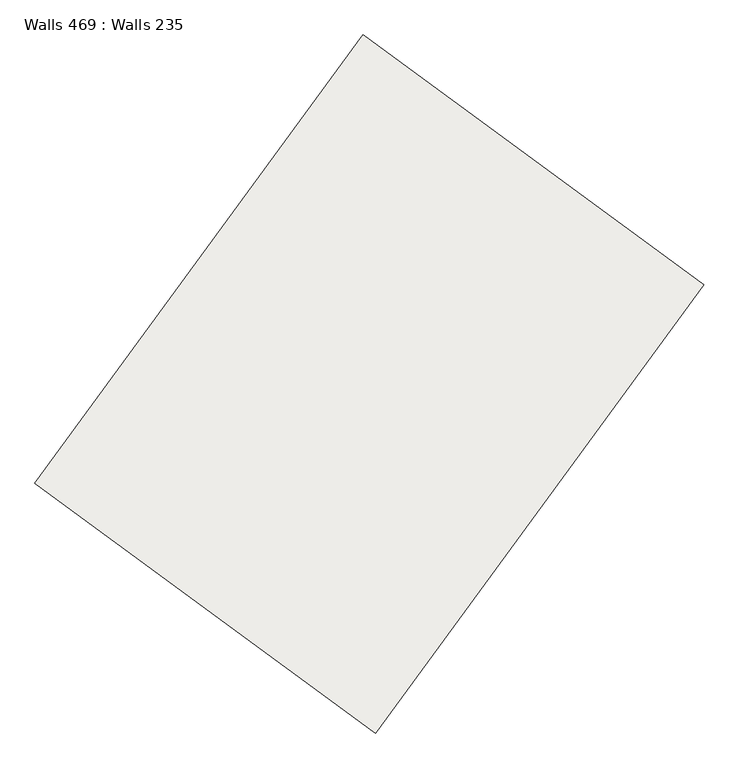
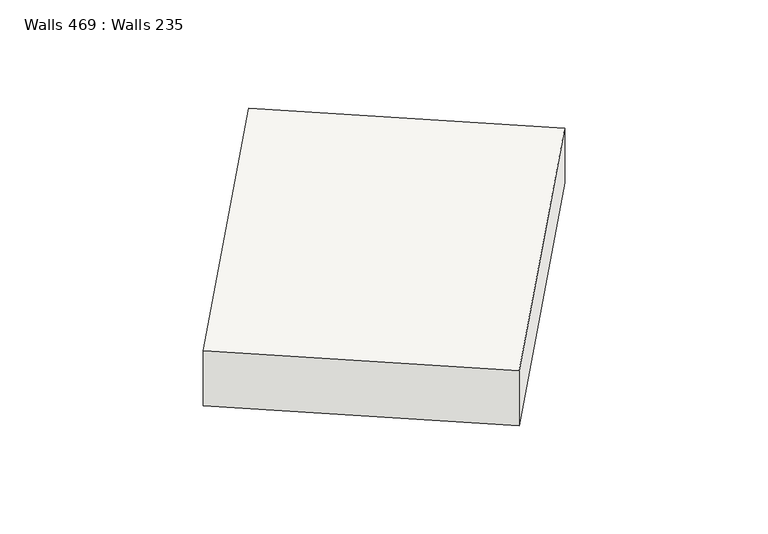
"""IFC4 building model written with IfcOpenShell, lengths in millimetres: slab geometry, Walls 469 : Walls 235."""

import ifcopenshell
import ifcopenshell.guid

model = None  # the IFC model being written
_history = None  # IfcOwnerHistory: only IFC2X3 demands one
_inside = {}  # id of a spatial element -> (the spatial element, [elements in it])
_under = {}  # id of a project, library or spatial element -> (it, [spatial elements below it])
_declared = {}  # id of a project -> (the project, [libraries it declares])
_typed = {}  # id of a type object -> (the type object, [elements of that type])
_made_of = {}  # id of a material, layer set ... -> (it, [elements and type objects made of it])


def new_model(schema):
    """Start an empty IFC model of exactly this schema.

    Asked for "IFC4X3", IfcOpenShell would pick the latest addendum, in which some entities
    have other attributes; the version numbers below select the first issue.
    IFC2X3 requires an IfcOwnerHistory on every rooted entity: one is made here for all.
    """
    global model, _history
    if schema == "IFC4X3":
        model = ifcopenshell.file(schema_version=(4, 3, 0, 0))
    else:
        model = ifcopenshell.file(schema=schema)
    _inside.clear()
    _under.clear()
    _declared.clear()
    _typed.clear()
    _made_of.clear()
    _history = None
    if model.schema == "IFC2X3":
        org = make("IfcOrganization", Name="unknown")
        user = make(
            "IfcPersonAndOrganization",
            ThePerson=make("IfcPerson", FamilyName="unknown"),
            TheOrganization=org,
        )
        app = make(
            "IfcApplication",
            ApplicationDeveloper=org,
            Version="unknown",
            ApplicationFullName="unknown",
            ApplicationIdentifier="unknown",
        )
        _history = make(
            "IfcOwnerHistory",
            OwningUser=user,
            OwningApplication=app,
            ChangeAction="ADDED",
            CreationDate=0,
        )
    return model


def make(cls, **values):
    """One entity of the class cls with the attributes given. An attribute that is None is left unset."""
    return model.create_entity(
        cls, **{name: value for name, value in values.items() if value is not None}
    )


def rooted(cls, **values):
    """An entity with a GlobalId (a new one), such as an element, a storey or a relation."""
    return make(cls, GlobalId=ifcopenshell.guid.new(), OwnerHistory=_history, **values)


def si_unit(unit_type, name, prefix=None):
    """IfcSIUnit, for example si_unit("LENGTHUNIT", "METRE", prefix="MILLI")."""
    return make("IfcSIUnit", UnitType=unit_type, Prefix=prefix, Name=name)


def assignment(units):
    """IfcUnitAssignment: the units of a project."""
    return None if units is None else make("IfcUnitAssignment", Units=units)


def point(xyz):
    """IfcCartesianPoint."""
    return None if xyz is None else make("IfcCartesianPoint", Coordinates=xyz)


def direction(xyz):
    """IfcDirection."""
    return None if xyz is None else make("IfcDirection", DirectionRatios=xyz)


def frame(location, z_axis=None, x_axis=None):
    """IfcAxis2Placement3D, a coordinate frame: its origin and axes. An axis left out is left unset."""
    return make(
        "IfcAxis2Placement3D",
        Location=point(location),
        Axis=direction(z_axis),
        RefDirection=direction(x_axis),
    )


def origin():
    """The frame at (0, 0, 0) with its axes left unset."""
    return frame((0.0, 0.0, 0.0))


def place(relative_to, where):
    """IfcLocalPlacement: puts the frame where relative to a parent placement (None: the world)."""
    return make(
        "IfcLocalPlacement", PlacementRelTo=relative_to, RelativePlacement=where
    )


def context(
    kind, dimensions, precision=None, world=None, true_north=None, identifier=None
):
    """IfcGeometricRepresentationContext, for example the 3D "Model" context."""
    return make(
        "IfcGeometricRepresentationContext",
        ContextIdentifier=identifier,
        ContextType=kind,
        CoordinateSpaceDimension=dimensions,
        Precision=precision,
        WorldCoordinateSystem=world,
        TrueNorth=true_north,
    )


def project(units=None, contexts=None):
    """IfcProject with its units and contexts."""
    return rooted(
        "IfcProject",
        Name="project",
        RepresentationContexts=contexts,
        UnitsInContext=assignment(units),
    )


def spatial(cls, under=None, at=None, **own):
    """A site, building, storey or space (cls), placed at a placement, below another one or the project."""
    s = rooted(cls, ObjectPlacement=at, **own)
    if under is not None:
        _under.setdefault(under.id(), (under, []))[1].append(s)
    return s


def polyline(points):
    """IfcPolyline through the points."""
    return make("IfcPolyline", Points=[point(p) for p in points])


def outline(outer, holes=None, kind="AREA"):
    """IfcArbitraryClosedProfileDef: a profile drawn as a closed curve; with holes, ...WithVoids."""
    if holes is None:
        return make("IfcArbitraryClosedProfileDef", ProfileType=kind, OuterCurve=outer)
    return make(
        "IfcArbitraryProfileDefWithVoids",
        ProfileType=kind,
        OuterCurve=outer,
        InnerCurves=holes,
    )


def extrude(swept, where, along, depth):
    """IfcExtrudedAreaSolid: the profile swept, set in the frame where, extruded along a direction by depth."""
    return make(
        "IfcExtrudedAreaSolid",
        SweptArea=swept,
        Position=where,
        ExtrudedDirection=direction(along),
        Depth=depth,
    )


def shape(context_of_items, identifier, shape_type, items):
    """IfcShapeRepresentation: the items that make up one representation, for example the "Body"."""
    return make(
        "IfcShapeRepresentation",
        ContextOfItems=context_of_items,
        RepresentationIdentifier=identifier,
        RepresentationType=shape_type,
        Items=items,
    )


def source(mapping_origin, context_of_items, identifier, shape_type, items):
    """IfcRepresentationMap: a shape defined once, which mapped items show again and again."""
    return make(
        "IfcRepresentationMap",
        MappingOrigin=mapping_origin,
        MappedRepresentation=shape(context_of_items, identifier, shape_type, items),
    )


def transform(
    local_origin,
    x_axis=None,
    y_axis=None,
    z_axis=None,
    scale=None,
    scale2=None,
    scale3=None,
    uniform=True,
):
    """IfcCartesianTransformationOperator3D, or its non-uniform kind. x_axis, y_axis, z_axis: its Axis1, 2, 3."""
    if uniform:
        return make(
            "IfcCartesianTransformationOperator3D",
            Axis1=direction(x_axis),
            Axis2=direction(y_axis),
            LocalOrigin=point(local_origin),
            Scale=scale,
            Axis3=direction(z_axis),
        )
    return make(
        "IfcCartesianTransformationOperator3DnonUniform",
        Axis1=direction(x_axis),
        Axis2=direction(y_axis),
        LocalOrigin=point(local_origin),
        Scale=scale,
        Axis3=direction(z_axis),
        Scale2=scale2,
        Scale3=scale3,
    )


def mapped(mapping_source, mapping_target):
    """IfcMappedItem: shows the shape of a source again, moved by a transform."""
    return make(
        "IfcMappedItem", MappingSource=mapping_source, MappingTarget=mapping_target
    )


def made_of(thing, what):
    """Note that an element or type object is made of a material, layer set ...; save() writes the relation."""
    if what is not None:
        _made_of.setdefault(what.id(), (what, []))[1].append(thing)
    return thing


def element(
    cls,
    number,
    at=None,
    inside=None,
    cuts=None,
    type_object=None,
    material=None,
    context=None,
    identifier="Body",
    shape_type=None,
    held_by="IfcProductDefinitionShape",
    body=None,
    shapes=None,
    **own,
):
    """One element of the class cls, such as IfcWall. Its Tag is "e" and its number.

    at: its placement. inside: the storey or other place that contains it. cuts: it is an
    opening in that element (IfcRelVoidsElement). A single representation is given by context,
    identifier, shape_type and body (its items); several are given by shapes. held_by: the class
    of the entity that holds the representations. save() writes the other relations.
    """
    e = rooted(cls, Tag="e%d" % number, ObjectPlacement=at, **own)
    if body is not None:
        shapes = [shape(context, identifier, shape_type, body)]
    if shapes is not None:
        e.Representation = make(held_by, Representations=shapes)
    if inside is not None:
        _inside.setdefault(inside.id(), (inside, []))[1].append(e)
    if cuts is not None:
        rooted(
            "IfcRelVoidsElement", RelatingBuildingElement=cuts, RelatedOpeningElement=e
        )
    if type_object is not None:
        _typed.setdefault(type_object.id(), (type_object, []))[1].append(e)
    return made_of(e, material)


def aggregate(whole, parts):
    """IfcRelAggregates: a whole, such as a stair, and the parts it consists of."""
    return rooted("IfcRelAggregates", RelatingObject=whole, RelatedObjects=parts)


def save(model, path):
    """Write the relations noted so far, then the file.

    IfcRelAggregates (storeys below a building ...), IfcRelContainedInSpatialStructure (elements
    in a storey), IfcRelDefinesByType, IfcRelAssociatesMaterial and IfcRelDeclares: one each for
    every whole, place, type object, material and project.
    """
    for whole, parts in _under.values():
        aggregate(whole, parts)
    for where, things in _inside.values():
        rooted(
            "IfcRelContainedInSpatialStructure",
            RelatedElements=things,
            RelatingStructure=where,
        )
    for kind, things in _typed.values():
        rooted("IfcRelDefinesByType", RelatedObjects=things, RelatingType=kind)
    for what, things in _made_of.values():
        rooted("IfcRelAssociatesMaterial", RelatedObjects=things, RelatingMaterial=what)
    for by, libraries in _declared.values():
        rooted("IfcRelDeclares", RelatingContext=by, RelatedDefinitions=libraries)
    model.write(path)


def walls_469_walls_235_b4fc17a1(model_context):
    return source(origin(), model_context, "Body", "SweptSolid", [
        extrude(outline(polyline([(-400.0, 0.0), (400.0, 0.0), (337.2, -4999.9823358), (-462.8, -4999.9823358), (-400.0, 0.0)])), frame((458056.3195047, 343519.119096, 646610.8), z_axis=(-0.80670163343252, 0.5909589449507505, 0.0), x_axis=(0.0, 0.0, 1.0)), (0.0, 0.0, 1.0), 3800.0),
    ])


if __name__ == "__main__":
    model = new_model("IFC4")
    model_context = context("Model", 3, world=origin())
    ifc_project = project(units=[si_unit("LENGTHUNIT", "METRE", prefix="MILLI")], contexts=[model_context])
    site = spatial("IfcSite", under=ifc_project)
    building = spatial("IfcBuilding", under=site)
    placement = place(None, origin())
    walls_469_walls_235_shape = walls_469_walls_235_b4fc17a1(model_context)
    element("IfcSlab", 1, ObjectType="Walls 469 : Walls 235", at=placement, inside=building, context=model_context, shape_type="MappedRepresentation", body=[
        mapped(walls_469_walls_235_shape, transform((0.0, 0.0, 0.0), x_axis=(1.0, 0.0, 0.0), y_axis=(0.0, 1.0, 0.0), z_axis=(0.0, 0.0, 1.0))),
    ])
    save(model, "model.ifc")
